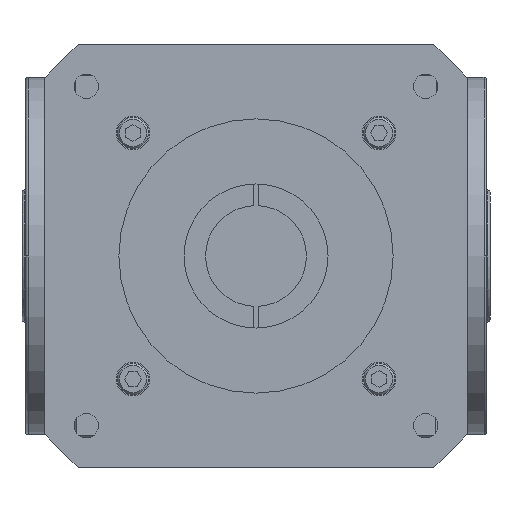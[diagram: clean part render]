
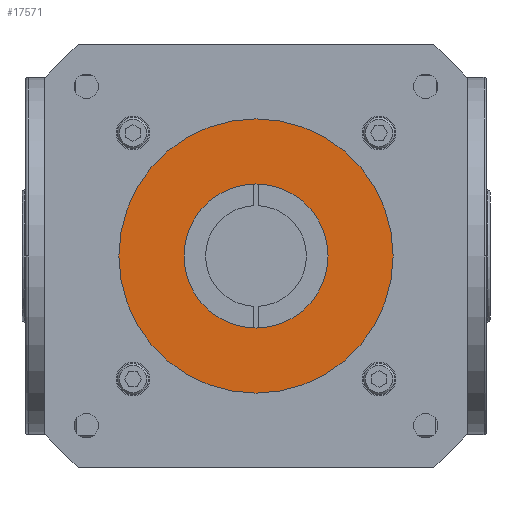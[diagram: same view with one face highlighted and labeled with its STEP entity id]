
A CAD part, front view. The second image highlights one B-rep face of the part: STEP entity #17571.
In plain terms, the highlighted planar face has unit normal (0, -1, 0).
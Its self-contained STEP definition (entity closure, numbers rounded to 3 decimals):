
#182 = EDGE_CURVE ( 'NONE', #24157, #28807, #24546, .T. ) ;
#375 = AXIS2_PLACEMENT_3D ( 'NONE', #822, #17148, #3139 ) ;
#822 = CARTESIAN_POINT ( 'NONE',  ( 0., -65., 0. ) ) ;
#1201 = ORIENTED_EDGE ( 'NONE', *, *, #21722, .T. ) ;
#2113 = CARTESIAN_POINT ( 'NONE',  ( -57.15, -65., 0. ) ) ;
#2673 = DIRECTION ( 'NONE',  ( 1., 0., 0. ) ) ;
#2736 = DIRECTION ( 'NONE',  ( 0., 1., 0. ) ) ;
#2791 = CIRCLE ( 'NONE', #6602, 57.15 ) ;
#2862 = EDGE_LOOP ( 'NONE', ( #1201, #5150 ) ) ;
#2925 = CARTESIAN_POINT ( 'NONE',  ( 0., -65., 0. ) ) ;
#3139 = DIRECTION ( 'NONE',  ( 1., 0., 0. ) ) ;
#5150 = ORIENTED_EDGE ( 'NONE', *, *, #182, .T. ) ;
#5596 = ORIENTED_EDGE ( 'NONE', *, *, #10576, .F. ) ;
#6602 = AXIS2_PLACEMENT_3D ( 'NONE', #11691, #27889, #14045 ) ;
#7232 = DIRECTION ( 'NONE',  ( 0., 1., 0. ) ) ;
#9365 = AXIS2_PLACEMENT_3D ( 'NONE', #21138, #7232, #23488 ) ;
#9811 = AXIS2_PLACEMENT_3D ( 'NONE', #2925, #2736, #2673 ) ;
#10189 = AXIS2_PLACEMENT_3D ( 'NONE', #11682, #27881, #14037 ) ;
#10576 = EDGE_CURVE ( 'NONE', #15109, #24399, #20099, .T. ) ;
#11638 = CARTESIAN_POINT ( 'NONE',  ( 57.15, -65., 0. ) ) ;
#11682 = CARTESIAN_POINT ( 'NONE',  ( 0., -65., 0. ) ) ;
#11691 = CARTESIAN_POINT ( 'NONE',  ( 0., -65., 0. ) ) ;
#11837 = PLANE ( 'NONE',  #9365 ) ;
#14037 = DIRECTION ( 'NONE',  ( 1., 0., 0. ) ) ;
#14045 = DIRECTION ( 'NONE',  ( 1., 0., 0. ) ) ;
#15109 = VERTEX_POINT ( 'NONE', #2113 ) ;
#17148 = DIRECTION ( 'NONE',  ( 0., 1., 0. ) ) ;
#17571 = ADVANCED_FACE ( 'NONE', ( #21217, #21520 ), #11837, .F. ) ;
#19771 = EDGE_CURVE ( 'NONE', #24399, #15109, #2791, .T. ) ;
#20099 = CIRCLE ( 'NONE', #375, 57.15 ) ;
#20824 = ORIENTED_EDGE ( 'NONE', *, *, #19771, .F. ) ;
#21006 = EDGE_LOOP ( 'NONE', ( #20824, #5596 ) ) ;
#21138 = CARTESIAN_POINT ( 'NONE',  ( 0., -65., -57.15 ) ) ;
#21217 = FACE_OUTER_BOUND ( 'NONE', #21006, .T. ) ;
#21520 = FACE_BOUND ( 'NONE', #2862, .T. ) ;
#21722 = EDGE_CURVE ( 'NONE', #28807, #24157, #29682, .T. ) ;
#22297 = CARTESIAN_POINT ( 'NONE',  ( 30., -65., 0. ) ) ;
#23488 = DIRECTION ( 'NONE',  ( 1., 0., 0. ) ) ;
#24157 = VERTEX_POINT ( 'NONE', #29179 ) ;
#24399 = VERTEX_POINT ( 'NONE', #11638 ) ;
#24546 = CIRCLE ( 'NONE', #9811, 30. ) ;
#27881 = DIRECTION ( 'NONE',  ( 0., 1., 0. ) ) ;
#27889 = DIRECTION ( 'NONE',  ( 0., 1., 0. ) ) ;
#28807 = VERTEX_POINT ( 'NONE', #22297 ) ;
#29179 = CARTESIAN_POINT ( 'NONE',  ( -30., -65., 0. ) ) ;
#29682 = CIRCLE ( 'NONE', #10189, 30. ) ;
